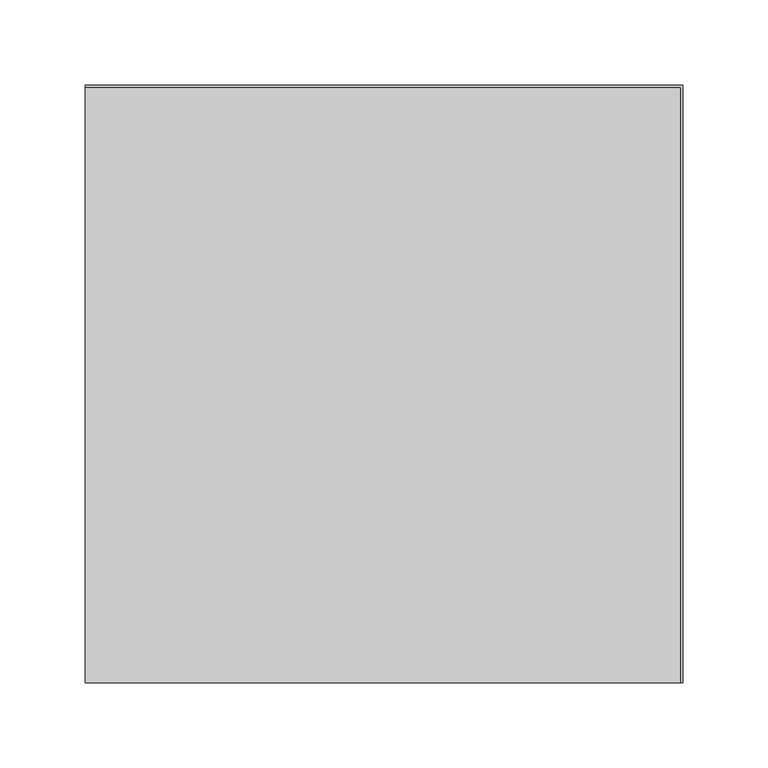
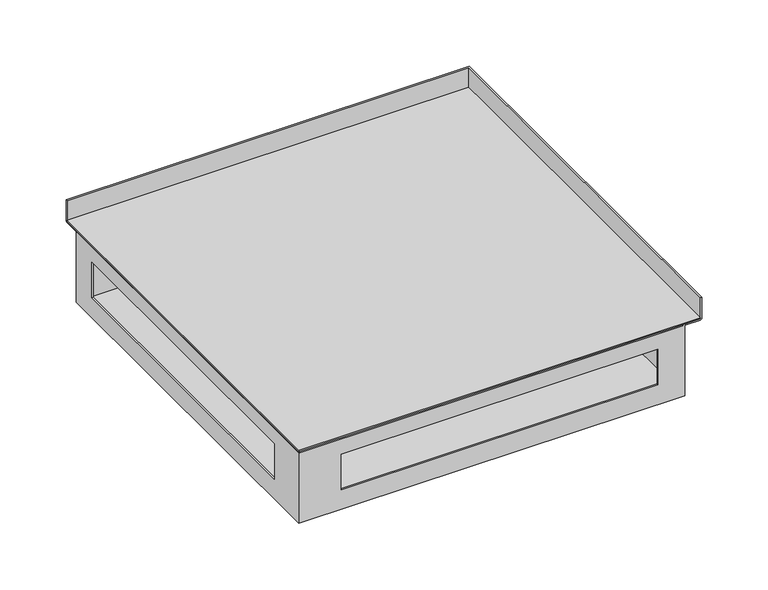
"""IFC4 building model written with IfcOpenShell, lengths in millimetres: proxy geometry, TECHNO_Угловой элемент_KVU : 350_085_90°."""

from ifc_helpers import new_model, si_unit, frame, origin, place, context, project, spatial, polyline, circle_curve, ellipse_curve, outline, extrude, source, transform, mapped, element, save
from ifc_brep_helpers import plane_surface, cylinder_surface, advanced_brep


def mechanical_equipment_4f6bdbb5(model_context):
    return source(origin(), model_context, "Body", "SolidModel", [
        extrude(outline(polyline([(0.0, 173.8), (348.8, 173.8), (348.8, -175.0), (0.0, -175.0), (0.0, 173.8)])), frame((0.0, 0.0, -19.3), z_axis=(0.0, 0.0, 1.0), x_axis=(1.0, 0.0, 0.0)), (0.0, 0.0, 1.0), 1.2),
        advanced_brep(
        [(1.2, 159.0, -83.8), (1.2, -173.8, -83.8), (334.0, -173.8, -83.8), (334.0, 159.0, -83.8), (0.0, 160.2, -85.0), (335.2, 160.2, -85.0), (335.2, -175.0, -85.0), (0.0, -175.0, -85.0), (0.0, 160.2, -20.5), (0.0, -175.0, -20.5), (0.0, 159.0, -20.5), (0.0, 160.2, -19.3), (0.0, 173.8, -19.3), (0.0, 173.8, 0.0), (0.0, 175.0, 0.0), (0.0, 175.0, -19.3), (0.0, 173.8, -20.5), (0.0, -138.0, -34.5), (0.0, -138.0, -67.0), (0.0, 137.0, -67.0), (0.0, 137.0, -34.5), (335.2, -175.0, -20.5), (348.8, -175.0, -20.5), (350.0, -175.0, -19.3), (350.0, -175.0, 0.0), (348.8, -175.0, 0.0), (348.8, -175.0, -19.3), (335.2, -175.0, -19.3), (334.0, -175.0, -20.5), (37.0, -175.0, -67.0), (37.0, -175.0, -34.5), (312.0, -175.0, -34.5), (312.0, -175.0, -67.0), (335.2, 160.2, -20.5), (1.2, 160.2, -19.3), (1.2, -173.8, -19.3), (335.2, -173.8, -19.3), (348.8, 173.8, -19.3), (335.2, -159.0, -19.3), (16.0, -159.0, -19.3), (16.0, 160.2, -19.3), (335.2, 160.2, -19.3), (16.0, -159.0, -20.5), (16.0, 159.0, -20.5), (334.0, -159.0, -20.5), (334.0, -173.8, -20.5), (1.2, -173.8, -20.5), (1.2, 159.0, -20.5), (1.2, -138.0, -67.0), (1.2, -138.0, -34.5), (1.2, 137.0, -34.5), (1.2, 137.0, -67.0), (37.0, -173.8, -34.5), (37.0, -173.8, -67.0), (312.0, -173.8, -67.0), (312.0, -173.8, -34.5), (350.0, 175.0, -19.3), (350.0, 175.0, 0.0), (348.8, 173.8, 0.0), (348.8, 173.8, -20.5), (334.0, 159.0, -20.5)],
        [
            (0, 1),
            (1, 2),
            (2, 3),
            (3, 0),
            (4, 5),
            (5, 6),
            (6, 7),
            (7, 4),
            (8, 4),
            (7, 9),
            (9, 10),
            (10, 11, circle_curve(frame((0.0, 160.2, -20.5), z_axis=(-1.0, 0.0, 0.0), x_axis=(0.0, -1.0, 0.0)), 1.2)),
            (11, 12),
            (12, 13),
            (13, 14),
            (14, 15),
            (15, 16, circle_curve(frame((0.0, 173.8, -19.3), z_axis=(-1.0, 0.0, 0.0), x_axis=(0.0, -1.0, 0.0)), 1.2)),
            (16, 8),
            (17, 18),
            (18, 19),
            (19, 20),
            (20, 17),
            (6, 21),
            (21, 22),
            (22, 23, circle_curve(frame((348.8, -175.0, -19.3), z_axis=(0.0, -1.0, 0.0), x_axis=(-1.0, 0.0, 0.0)), 1.2)),
            (23, 24),
            (24, 25),
            (25, 26),
            (26, 27),
            (27, 28, circle_curve(frame((335.2, -175.0, -20.5), z_axis=(0.0, -1.0, 0.0), x_axis=(-1.0, 0.0, 0.0)), 1.2)),
            (28, 9),
            (29, 30),
            (30, 31),
            (31, 32),
            (32, 29),
            (8, 33),
            (33, 5),
            (33, 21),
            (34, 35),
            (35, 36),
            (36, 27),
            (26, 37),
            (37, 12),
            (11, 34),
            (38, 39),
            (39, 40),
            (40, 41),
            (41, 38),
            (39, 42),
            (42, 43),
            (43, 40, circle_curve(frame((16.0, 160.2, -20.5), z_axis=(-1.0, 0.0, 0.0), x_axis=(0.0, -1.0, 0.0)), 1.2)),
            (38, 44, circle_curve(frame((335.2, -159.0, -20.5), z_axis=(0.0, -1.0, 0.0), x_axis=(-1.0, 0.0, 0.0)), 1.2)),
            (44, 42),
            (44, 45),
            (45, 46),
            (46, 47),
            (47, 43),
            (46, 1),
            (0, 47),
            (48, 49),
            (49, 50),
            (50, 51),
            (51, 48),
            (45, 2),
            (52, 53),
            (53, 54),
            (54, 55),
            (55, 52),
            (34, 10, ellipse_curve(frame((1.2, 160.2, -20.5), z_axis=(0.7071067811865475, -0.7071067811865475, 0.0), x_axis=(0.7071067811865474, 0.7071067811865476, 0.0)), 1.6970563, 1.2)),
            (9, 35, ellipse_curve(frame((1.2, -173.8, -20.5), z_axis=(-0.7071067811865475, 0.7071067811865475, 0.0), x_axis=(0.7071067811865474, 0.7071067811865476, 0.0)), 1.6970563, 1.2)),
            (28, 36, ellipse_curve(frame((335.2, -173.8, -20.5), z_axis=(-0.7071067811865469, 0.7071067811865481, 0.0), x_axis=(-0.7071067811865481, -0.7071067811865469, 0.0)), 1.6970563, 1.2)),
            (23, 56),
            (56, 57),
            (57, 24),
            (57, 14),
            (13, 58),
            (58, 25),
            (58, 37),
            (16, 59),
            (59, 22),
            (59, 56, ellipse_curve(frame((348.8, 173.8, -19.3), z_axis=(0.7071067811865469, -0.7071067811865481, 0.0), x_axis=(-0.7071067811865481, -0.7071067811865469, 0.0)), 1.6970563, 1.2)),
            (56, 15),
            (41, 60, ellipse_curve(frame((335.2, 160.2, -20.5), z_axis=(0.7071067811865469, -0.7071067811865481, 0.0), x_axis=(-0.7071067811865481, -0.7071067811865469, 0.0)), 1.6970563, 1.2)),
            (60, 44),
            (60, 3),
            (43, 60),
            (48, 18),
            (17, 49),
            (51, 19),
            (50, 20),
            (52, 30),
            (29, 53),
            (55, 31),
            (54, 32),
        ],
        [
            plane_surface(frame((0.0, 159.0, -83.8), z_axis=(0.0, 0.0, 1.0), x_axis=(0.0, -1.0, 0.0))),
            plane_surface(frame((0.0, 159.0, -85.0), z_axis=(0.0, 0.0, -1.0), x_axis=(0.0, 1.0, 0.0))),
            plane_surface(frame((0.0, 159.0, -83.8), z_axis=(-1.0, 0.0, 0.0), x_axis=(0.0, 0.0, -1.0))),
            plane_surface(frame((0.0, -175.0, -83.8), z_axis=(0.0, -1.0, 0.0), x_axis=(0.0, 0.0, -1.0))),
            plane_surface(frame((0.0, 160.2, -85.0), z_axis=(0.0, 1.0, 0.0), x_axis=(0.0, 0.0, -1.0))),
            plane_surface(frame((335.2, -175.0, -85.0), z_axis=(1.0, 0.0, 0.0), x_axis=(0.0, 0.0, -1.0))),
            plane_surface(frame((1.2, 160.2, -19.3), z_axis=(0.0, 0.0, 1.0), x_axis=(0.0, -1.0, 0.0))),
            plane_surface(frame((16.0, 160.2, -19.3), z_axis=(1.0, 0.0, 0.0), x_axis=(0.0, -1.0, 0.0))),
            plane_surface(frame((16.0, -159.0, -19.3), z_axis=(0.0, 1.0, 0.0), x_axis=(1.0, 0.0, 0.0))),
            plane_surface(frame((16.0, 160.2, -20.5), z_axis=(0.0, 0.0, -1.0), x_axis=(0.0, -1.0, 0.0))),
            plane_surface(frame((1.2, 160.2, -20.5), z_axis=(1.0, 0.0, 0.0), x_axis=(0.0, -1.0, 0.0))),
            plane_surface(frame((1.2, -173.8, -20.5), z_axis=(0.0, 1.0, 0.0), x_axis=(1.0, 0.0, 0.0))),
            cylinder_surface(frame((1.2, 160.2, -20.5), z_axis=(0.0, 1.0, 0.0), x_axis=(-1.0, 0.0, 0.0)), 1.2),
            cylinder_surface(frame((0.0, -173.8, -20.5), z_axis=(-1.0, 0.0, 0.0), x_axis=(0.0, -1.0, 0.0)), 1.2),
            plane_surface(frame((350.0, -175.0, -19.3), z_axis=(1.0, 0.0, 0.0), x_axis=(0.0, 1.0, 0.0))),
            plane_surface(frame((350.0, -175.0, 0.0), z_axis=(0.0, 0.0, 1.0), x_axis=(0.0, 1.0, 0.0))),
            plane_surface(frame((348.8, -175.0, 0.0), z_axis=(-1.0, 0.0, 0.0), x_axis=(0.0, 1.0, 0.0))),
            plane_surface(frame((335.2, -175.0, -20.5), z_axis=(0.0, 0.0, -1.0), x_axis=(0.0, 1.0, 0.0))),
            cylinder_surface(frame((348.8, -175.0, -19.3), z_axis=(0.0, -1.0, 0.0), x_axis=(-1.0, 0.0, 0.0)), 1.2),
            plane_surface(frame((350.0, 175.0, -19.3), z_axis=(0.0, 1.0, 0.0), x_axis=(-1.0, 0.0, 0.0))),
            plane_surface(frame((348.8, 173.8, 0.0), z_axis=(0.0, -1.0, 0.0), x_axis=(-1.0, 0.0, 0.0))),
            cylinder_surface(frame((175.0, 173.8, -19.3), z_axis=(1.0, 0.0, 0.0), x_axis=(0.0, -1.0, 0.0)), 1.2),
            cylinder_surface(frame((335.2, -175.0, -20.5), z_axis=(0.0, -1.0, 0.0), x_axis=(-1.0, 0.0, 0.0)), 1.2),
            plane_surface(frame((334.0, -175.0, -20.5), z_axis=(-1.0, 0.0, 0.0), x_axis=(0.0, 1.0, 0.0))),
            cylinder_surface(frame((175.0, 160.2, -20.5), z_axis=(1.0, 0.0, 0.0), x_axis=(0.0, -1.0, 0.0)), 1.2),
            plane_surface(frame((334.0, 159.0, -20.5), z_axis=(0.0, -1.0, 0.0), x_axis=(-1.0, 0.0, 0.0))),
            plane_surface(frame((1.2, -138.0, -34.5), z_axis=(0.0, 1.0, 0.0), x_axis=(-1.0, 0.0, 0.0))),
            plane_surface(frame((1.2, -138.0, -67.0), z_axis=(0.0, 0.0, 1.0), x_axis=(-1.0, 0.0, 0.0))),
            plane_surface(frame((1.2, 137.0, -67.0), z_axis=(0.0, -1.0, 0.0), x_axis=(-1.0, 0.0, 0.0))),
            plane_surface(frame((1.2, 137.0, -34.5), z_axis=(0.0, 0.0, -1.0), x_axis=(-1.0, 0.0, 0.0))),
            plane_surface(frame((37.0, -173.8, -67.0), z_axis=(1.0, 0.0, 0.0), x_axis=(0.0, -1.0, 0.0))),
            plane_surface(frame((37.0, -173.8, -34.5), z_axis=(0.0, 0.0, -1.0), x_axis=(0.0, -1.0, 0.0))),
            plane_surface(frame((312.0, -173.8, -34.5), z_axis=(-1.0, 0.0, 0.0), x_axis=(0.0, -1.0, 0.0))),
            plane_surface(frame((312.0, -173.8, -67.0), z_axis=(0.0, 0.0, 1.0), x_axis=(0.0, -1.0, 0.0))),
        ],
        [
            (0, [[1, 2, 3, 4]]),
            (1, [[5, 6, 7, 8]]),
            (2, [[9, -8, 10, 11, 12, 13, 14, 15, 16, 17, 18], [19, 20, 21, 22]]),
            (3, [[23, 24, 25, 26, 27, 28, 29, 30, 31, -10, -7], [32, 33, 34, 35]]),
            (4, [[-9, 36, 37, -5]]),
            (5, [[-23, -6, -37, 38]]),
            (6, [[39, 40, 41, -29, 42, 43, -13, 44], [45, 46, 47, 48]]),
            (7, [[-46, 49, 50, 51]]),
            (8, [[-45, 52, 53, -49]]),
            (9, [[-50, -53, 54, 55, 56, 57]]),
            (10, [[58, -1, 59, -56], [60, 61, 62, 63]]),
            (11, [[-58, -55, 64, -2], [65, 66, 67, 68]]),
            (12, [[-39, 69, -11, 70]]),
            (13, [[-40, -70, -31, 71]]),
            (14, [[-26, 72, 73, 74]]),
            (15, [[-27, -74, 75, -15, 76, 77]]),
            (16, [[-28, -77, 78, -42]]),
            (17, [[-24, -38, -36, -18, 79, 80]]),
            (18, [[-25, -80, 81, -72]]),
            (19, [[-73, 82, -16, -75]]),
            (20, [[-76, -14, -43, -78]]),
            (21, [[-79, -17, -82, -81]]),
            (22, [[-30, -41, -71]]),
            (22, [[83, 84, -52, -48]]),
            (23, [[85, -3, -64, -54, -84]]),
            (24, [[-12, -69, -44]]),
            (24, [[-83, -47, -51, 86]]),
            (25, [[-85, -86, -57, -59, -4]]),
            (26, [[87, -19, 88, -60]]),
            (27, [[-87, -63, 89, -20]]),
            (28, [[-89, -62, 90, -21]]),
            (29, [[-88, -22, -90, -61]]),
            (30, [[91, -32, 92, -65]]),
            (31, [[-91, -68, 93, -33]]),
            (32, [[-93, -67, 94, -34]]),
            (33, [[-92, -35, -94, -66]]),
        ],
    ),
    ])


if __name__ == "__main__":
    model = new_model("IFC4")
    model_context = context("Model", 3, world=origin())
    ifc_project = project(units=[si_unit("LENGTHUNIT", "METRE", prefix="MILLI")], contexts=[model_context])
    site = spatial("IfcSite", under=ifc_project)
    building = spatial("IfcBuilding", under=site)
    placement = place(None, origin())
    mechanical_equipment_shape = mechanical_equipment_4f6bdbb5(model_context)
    element("IfcBuildingElementProxy", 1, Name="TECHNO_Угловой элемент_KVU : 350_085_90°", ObjectType="TECHNO_Угловой элемент_KVU : 350_085_90°", at=placement, inside=building, context=model_context, shape_type="MappedRepresentation", body=[
        mapped(mechanical_equipment_shape, transform((0.0, 0.0, 0.0), x_axis=(1.0, 0.0, 0.0), y_axis=(0.0, 1.0, 0.0), z_axis=(0.0, 0.0, 1.0))),
    ])
    save(model, "model.ifc")
